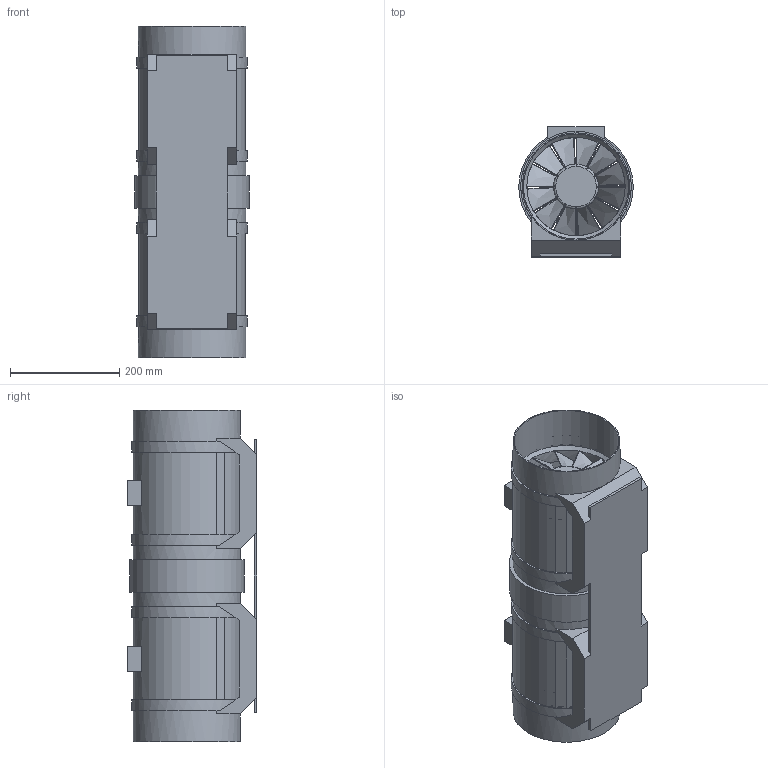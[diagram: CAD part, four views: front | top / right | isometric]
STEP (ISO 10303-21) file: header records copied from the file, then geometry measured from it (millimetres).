
FILE_DESCRIPTION(/* description */ (''),/* implementation_level */ '2;1');
FILE_NAME(/* name */ 'Z:\Output\MVZ__200_-06062-002.stp',/* time_stamp */ '2022-07-25T13:54:04+02:00',/* author */ ('engineering1'),/* organization */ (''),/* preprocessor_version */ 'ST-DEVELOPER v17.2',/* originating_system */ 'Autodesk Inventor 2019',/* authorisation */ '');
FILE_SCHEMA (('AUTOMOTIVE_DESIGN { 1 0 10303 214 3 1 1 }'));
Length unit declared in the file: millimetre
Products named in the file (1): MV-2
Bounding box: 209.07 x 237 x 605 mm (x, y, z)
Volume: 2797120.9 mm3; surface area: 1161936.7 mm2
Topology: 1 solids, 1 shells, 302 faces, 910 edges, 562 vertices
Faces by surface type: plane 118, bspline 96, cylinder 58, torus 24, cone 6
Full cylindrical faces by diameter (mm): 82 x2, 192 x3, 196 x4, 202 x4, 209.067 x1
Entity records: 12986 total; most frequent: CARTESIAN_POINT 5281, ORIENTED_EDGE 1820, DIRECTION 1182, EDGE_CURVE 910, VERTEX_POINT 562, AXIS2_PLACEMENT_3D 433, B_SPLINE_CURVE_WITH_KNOTS 348, LINE 316
